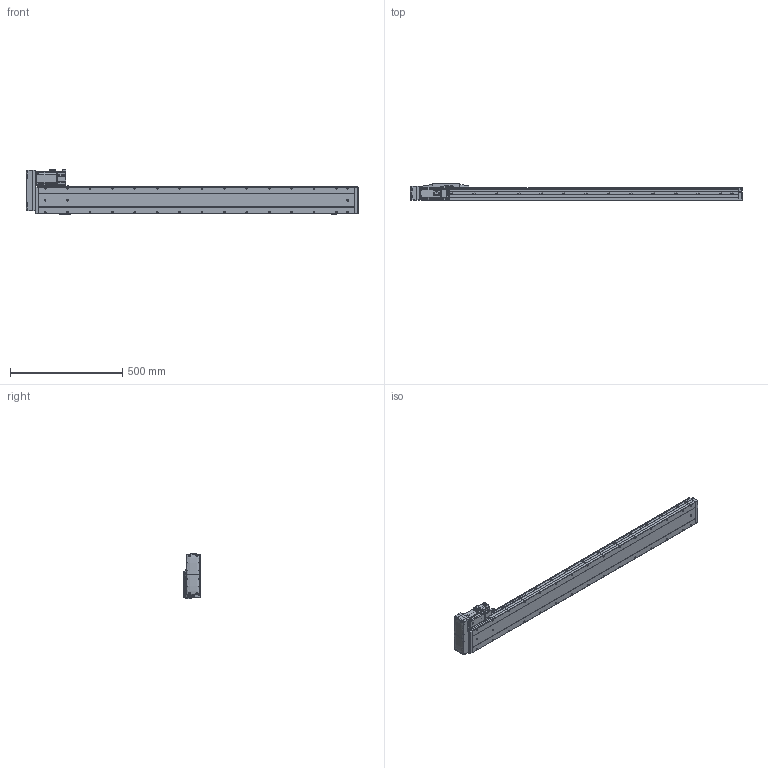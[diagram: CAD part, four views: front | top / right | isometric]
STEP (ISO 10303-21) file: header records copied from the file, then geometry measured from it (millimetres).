
FILE_DESCRIPTION (( 'STEP AP214' ), '1' );
FILE_NAME ('CTH12-L10-S1200-BL-C40（简）.STEP', '2023-02-06T03:12:46', ( '' ), ( '' ), 'SwSTEP 2.0', 'SolidWorks 2018', '' );
FILE_SCHEMA (( 'AUTOMOTIVE_DESIGN' ));
Length unit declared in the file: millimetre
Products named in the file (24): CTH12賑怢郪磁; 内六角圆柱头螺钉M3; CTH嫖萇羲壽假蚾啣; CTH12; CTH12-L10-S1200-BL-C40（简）; PM-Y45; CTH12底座-L1411简（1200行程）; 湮賑怢  裔赽-1(CTH12)賑怢; CTH12賑怢ㄗ潠ㄘ; CTH12_body_3; 内六角圆柱头螺钉M3-2; 蚐郲; CTH12耜蚾裔; CTH400W假蚾啣; CTH12侧装连接板（标准）简; 嫖萇羲壽郪磁2; 嫖萇羲壽郪磁1; CTH12覜茼え; hex nuts, style 1-grades ab gb_GB_FASTENER_NUT_SNAB1 M3-N; CTH12-BL_body_4; 内六角圆柱头螺钉M3-1; M5蹟隊; 400W萇儂; CTH400W垫板（3个厚）
Assembly tree (44 placements, depth 4):
  CTH12-L10-S1200-BL-C40（简）
    CTH12底座-L1411简（1200行程）
    蚐郲  x2
    CTH12_body_3
    CTH12-BL_body_4
    CTH12侧装连接板（标准）简
    CTH12耜蚾裔
    CTH12賑怢郪磁
      CTH12
        湮賑怢  裔赽-1(CTH12)賑怢
        CTH12賑怢ㄗ潠ㄘ
    CTH12覜茼え
    CTH400W垫板（3个厚）
    400W萇儂
    内六角圆柱头螺钉M3  x6
    M5蹟隊  x4
    嫖萇羲壽郪磁1
      CTH嫖萇羲壽假蚾啣
      PM-Y45
      内六角圆柱头螺钉M3-2  x2
      内六角圆柱头螺钉M3-1  x2
      hex nuts, style 1-grades ab gb_GB_FASTENER_NUT_SNAB1 M3-N  x2
    嫖萇羲壽郪磁2  x2
      CTH嫖萇羲壽假蚾啣
      PM-Y45
      内六角圆柱头螺钉M3-1
      内六角圆柱头螺钉M3-2
      hex nuts, style 1-grades ab gb_GB_FASTENER_NUT_SNAB1 M3-N
    CTH400W假蚾啣
Bounding box: 1481.5 x 76 x 205.26 mm (x, y, z)
Volume: 9776093.5 mm3; surface area: 888578 mm2
Topology: 47 solids, 48 shells, 3461 faces, 8658 edges, 5419 vertices
Faces by surface type: plane 1658, cylinder 980, cone 499, bspline 196, torus 124, sphere 4
Entity records: 114722 total; most frequent: CARTESIAN_POINT 42274, ORIENTED_EDGE 14418, DIRECTION 13691, EDGE_CURVE 7209, AXIS2_PLACEMENT_3D 4808, VERTEX_POINT 4523, LINE 4075, VECTOR 4075
